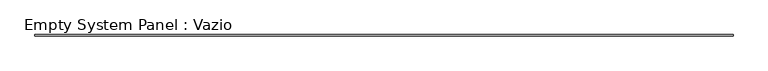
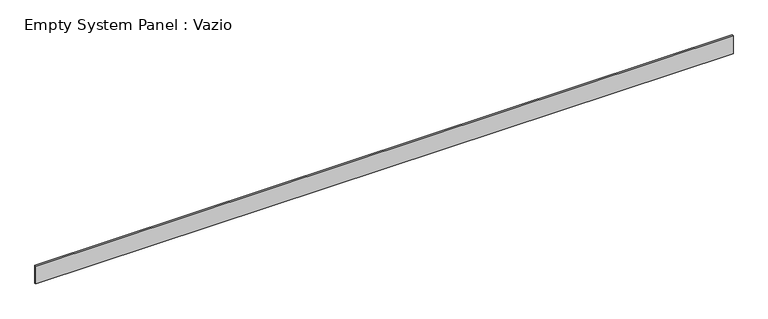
"""IFC4 building model written with IfcOpenShell, lengths in millimetres: plate geometry, Empty System Panel : Vazio."""

from ifc_helpers import new_model, si_unit, origin, origin_with_axes, place, context, project, spatial, polyline, outline, extrude, source, transform, mapped, element, save


def empty_system_panel_vazio_7533109b(model_context):
    return source(origin(), model_context, "Body", "SweptSolid", [
        extrude(outline(polyline([(23460.2135497, 50.0), (-23460.2135497, 50.0), (-23460.2135497, 150.0), (23460.2135497, 150.0), (23460.2135497, 50.0)])), origin_with_axes(), (0.0, 0.0, 1.0), 1265.2902293),
    ])


if __name__ == "__main__":
    model = new_model("IFC4")
    model_context = context("Model", 3, world=origin())
    ifc_project = project(units=[si_unit("LENGTHUNIT", "METRE", prefix="MILLI")], contexts=[model_context])
    site = spatial("IfcSite", under=ifc_project)
    building = spatial("IfcBuilding", under=site)
    placement = place(None, origin())
    empty_system_panel_vazio_shape = empty_system_panel_vazio_7533109b(model_context)
    element("IfcPlate", 1, ObjectType="Empty System Panel : Vazio", at=placement, inside=building, context=model_context, shape_type="MappedRepresentation", body=[
        mapped(empty_system_panel_vazio_shape, transform((0.0, 0.0, 0.0), x_axis=(1.0, 0.0, 0.0), y_axis=(0.0, 1.0, 0.0), z_axis=(0.0, 0.0, 1.0))),
    ])
    save(model, "model.ifc")
